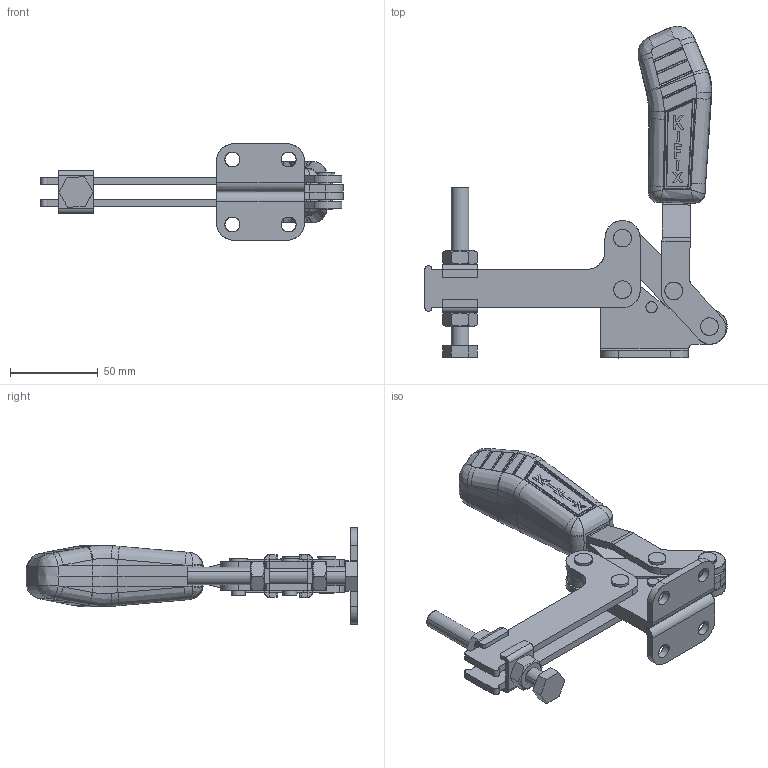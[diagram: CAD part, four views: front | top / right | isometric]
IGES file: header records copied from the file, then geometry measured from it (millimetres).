
Start section: SolidWorks IGES file using analytic representation for surfaces
Global section: file name: G:\Grampos\KF-631\KF-631 DL\KF-631 DL.IGS; native system: SolidWorks 2018; preprocessor: SolidWorks 2018; author: Ricardo.Sandi; date: 181129.155908; units: millimetre
Bounding box: 172 x 188.93 x 55 mm (x, y, z)
Surface area: 79080.1 mm2 (no closed solid volume)
Topology: 0 solids, 0 shells, 713 faces, 8097 edges, 8075 vertices
Faces by surface type: bspline 443, revolution 270
